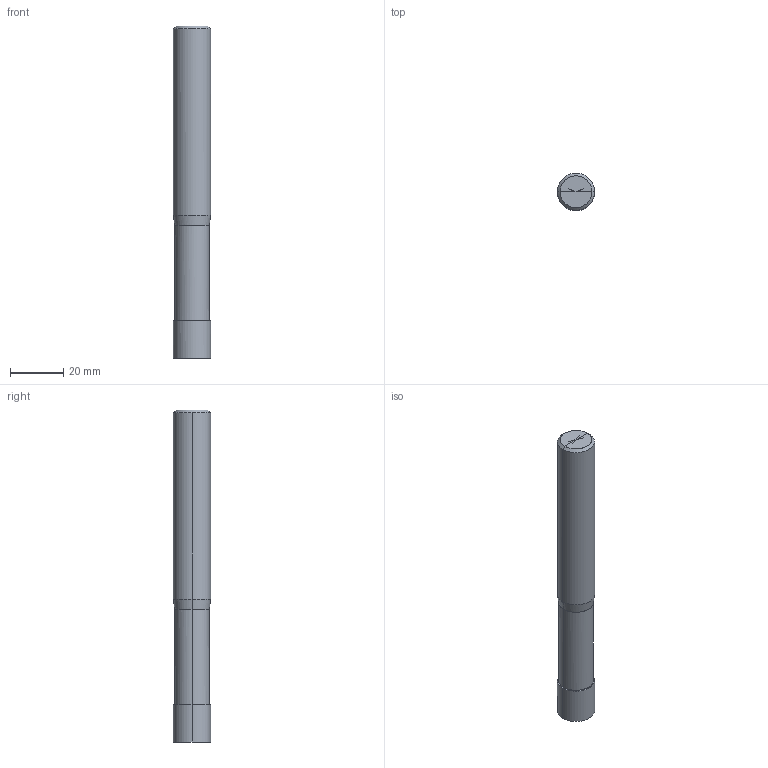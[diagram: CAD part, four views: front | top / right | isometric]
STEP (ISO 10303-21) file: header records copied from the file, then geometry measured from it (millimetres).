
FILE_DESCRIPTION(/* description */ (''),/* implementation_level */ '2;1');
FILE_NAME(/*name*/ '2001-12',/*time_stamp*/'2021-3-19T12:43:48',/*author*/ ('ISBE GmbH'),/*organization*/ ('ISBE GmbH'),/*preprocessor_version*/ 'STEP IO v1.0',/*originating_system*/ '',/*authorisation*/ '');
FILE_SCHEMA (('AUTOMOTIVE_DESIGN'));
Length unit declared in the file: millimetre
Products named in the file (1): Document
Bounding box: 14 x 13.97 x 125 mm (x, y, z)
Surface area: 5956 mm2 (no closed solid volume)
Topology: 0 solids, 18 shells, 18 faces, 74 edges, 68 vertices
Faces by surface type: bspline 18
Entity records: 783 total; most frequent: CARTESIAN_POINT 458, VERTEX_POINT 64, EDGE_CURVE 64, ORIENTED_EDGE 64, EDGE_LOOP 18, FACE_OUTER_BOUND 18, ADVANCED_FACE 18, DIRECTION 16
